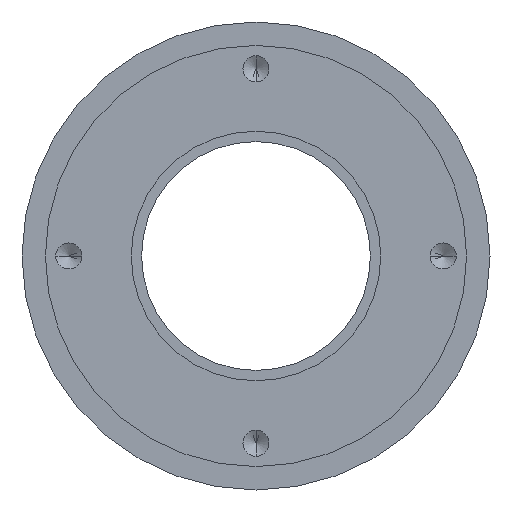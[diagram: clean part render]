
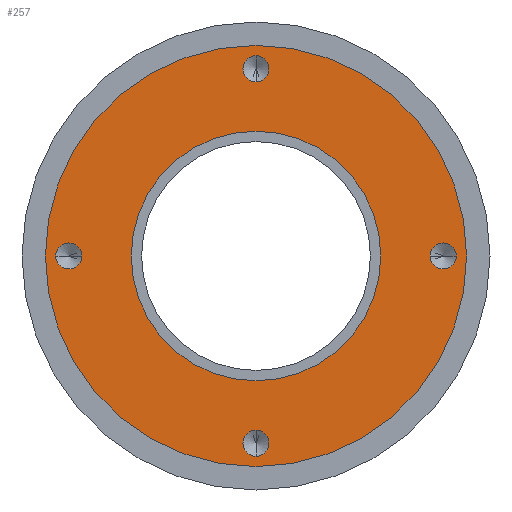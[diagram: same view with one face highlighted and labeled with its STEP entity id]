
A CAD part, front view. The second image highlights one B-rep face of the part: STEP entity #257.
In plain terms, the highlighted planar face has unit normal (0, -1, 0).
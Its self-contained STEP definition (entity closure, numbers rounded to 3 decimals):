
#257=ADVANCED_FACE('',(#327,#328,#329,#330,#331,#332),#315,.F.);
#315=PLANE('',#982);
#327=FACE_BOUND('',#359,.T.);
#328=FACE_BOUND('',#360,.T.);
#329=FACE_BOUND('',#361,.T.);
#330=FACE_BOUND('',#362,.T.);
#331=FACE_BOUND('',#363,.T.);
#332=FACE_BOUND('',#364,.T.);
#359=EDGE_LOOP('',(#455,#456));
#360=EDGE_LOOP('',(#457,#458));
#361=EDGE_LOOP('',(#459,#460));
#362=EDGE_LOOP('',(#461,#462));
#363=EDGE_LOOP('',(#463,#464));
#364=EDGE_LOOP('',(#465,#466));
#455=ORIENTED_EDGE('',*,*,#772,.F.);
#456=ORIENTED_EDGE('',*,*,#770,.F.);
#457=ORIENTED_EDGE('',*,*,#773,.T.);
#458=ORIENTED_EDGE('',*,*,#774,.T.);
#459=ORIENTED_EDGE('',*,*,#775,.F.);
#460=ORIENTED_EDGE('',*,*,#776,.F.);
#461=ORIENTED_EDGE('',*,*,#777,.F.);
#462=ORIENTED_EDGE('',*,*,#778,.F.);
#463=ORIENTED_EDGE('',*,*,#779,.F.);
#464=ORIENTED_EDGE('',*,*,#780,.F.);
#465=ORIENTED_EDGE('',*,*,#781,.F.);
#466=ORIENTED_EDGE('',*,*,#782,.F.);
#687=VERTEX_POINT('',#1436);
#688=VERTEX_POINT('',#1438);
#689=VERTEX_POINT('',#1444);
#690=VERTEX_POINT('',#1445);
#691=VERTEX_POINT('',#1448);
#692=VERTEX_POINT('',#1449);
#693=VERTEX_POINT('',#1452);
#694=VERTEX_POINT('',#1453);
#695=VERTEX_POINT('',#1456);
#696=VERTEX_POINT('',#1457);
#697=VERTEX_POINT('',#1460);
#698=VERTEX_POINT('',#1461);
#770=EDGE_CURVE('',#687,#688,#891,.T.);
#772=EDGE_CURVE('',#688,#687,#892,.T.);
#773=EDGE_CURVE('',#689,#690,#893,.T.);
#774=EDGE_CURVE('',#690,#689,#894,.T.);
#775=EDGE_CURVE('',#691,#692,#895,.T.);
#776=EDGE_CURVE('',#692,#691,#896,.T.);
#777=EDGE_CURVE('',#693,#694,#897,.T.);
#778=EDGE_CURVE('',#694,#693,#898,.T.);
#779=EDGE_CURVE('',#695,#696,#899,.T.);
#780=EDGE_CURVE('',#696,#695,#900,.T.);
#781=EDGE_CURVE('',#697,#698,#901,.T.);
#782=EDGE_CURVE('',#698,#697,#902,.T.);
#891=CIRCLE('',#968,20.25);
#892=CIRCLE('',#970,20.25);
#893=CIRCLE('',#972,12.);
#894=CIRCLE('',#973,12.);
#895=CIRCLE('',#974,1.25);
#896=CIRCLE('',#975,1.25);
#897=CIRCLE('',#976,1.25);
#898=CIRCLE('',#977,1.25);
#899=CIRCLE('',#978,1.25);
#900=CIRCLE('',#979,1.25);
#901=CIRCLE('',#980,1.25);
#902=CIRCLE('',#981,1.25);
#968=AXIS2_PLACEMENT_3D('',#1437,#1119,#1120);
#970=AXIS2_PLACEMENT_3D('',#1441,#1124,#1125);
#972=AXIS2_PLACEMENT_3D('',#1443,#1128,#1129);
#973=AXIS2_PLACEMENT_3D('',#1446,#1130,#1131);
#974=AXIS2_PLACEMENT_3D('',#1447,#1132,#1133);
#975=AXIS2_PLACEMENT_3D('',#1450,#1134,#1135);
#976=AXIS2_PLACEMENT_3D('',#1451,#1136,#1137);
#977=AXIS2_PLACEMENT_3D('',#1454,#1138,#1139);
#978=AXIS2_PLACEMENT_3D('',#1455,#1140,#1141);
#979=AXIS2_PLACEMENT_3D('',#1458,#1142,#1143);
#980=AXIS2_PLACEMENT_3D('',#1459,#1144,#1145);
#981=AXIS2_PLACEMENT_3D('',#1462,#1146,#1147);
#982=AXIS2_PLACEMENT_3D('',#1463,#1148,#1149);
#1119=DIRECTION('',(0.,1.,0.));
#1120=DIRECTION('',(-1.,0.,0.));
#1124=DIRECTION('',(0.,1.,0.));
#1125=DIRECTION('',(1.,0.,0.));
#1128=DIRECTION('',(0.,1.,0.));
#1129=DIRECTION('',(1.,0.,0.));
#1130=DIRECTION('',(0.,1.,0.));
#1131=DIRECTION('',(-1.,0.,0.));
#1132=DIRECTION('',(0.,-1.,0.));
#1133=DIRECTION('',(1.,0.,0.));
#1134=DIRECTION('',(0.,-1.,0.));
#1135=DIRECTION('',(-1.,0.,0.));
#1136=DIRECTION('',(0.,-1.,0.));
#1137=DIRECTION('',(0.,0.,-1.));
#1138=DIRECTION('',(0.,-1.,0.));
#1139=DIRECTION('',(0.,0.,1.));
#1140=DIRECTION('',(0.,-1.,0.));
#1141=DIRECTION('',(-1.,0.,0.));
#1142=DIRECTION('',(0.,-1.,0.));
#1143=DIRECTION('',(1.,0.,0.));
#1144=DIRECTION('',(0.,-1.,0.));
#1145=DIRECTION('',(0.,0.,1.));
#1146=DIRECTION('',(0.,-1.,0.));
#1147=DIRECTION('',(0.,0.,-1.));
#1148=DIRECTION('',(0.,1.,0.));
#1149=DIRECTION('',(1.,0.,0.));
#1436=CARTESIAN_POINT('',(-20.25,0.,0.));
#1437=CARTESIAN_POINT('',(0.,0.,0.));
#1438=CARTESIAN_POINT('',(20.25,0.,0.));
#1441=CARTESIAN_POINT('',(0.,0.,0.));
#1443=CARTESIAN_POINT('',(0.,0.,0.));
#1444=CARTESIAN_POINT('',(12.,0.,0.));
#1445=CARTESIAN_POINT('',(-12.,0.,0.));
#1446=CARTESIAN_POINT('',(0.,0.,0.));
#1447=CARTESIAN_POINT('',(-18.,0.,0.));
#1448=CARTESIAN_POINT('',(-16.75,0.,0.));
#1449=CARTESIAN_POINT('',(-19.25,0.,0.));
#1450=CARTESIAN_POINT('',(-18.,0.,0.));
#1451=CARTESIAN_POINT('',(0.,0.,18.));
#1452=CARTESIAN_POINT('',(0.,0.,16.75));
#1453=CARTESIAN_POINT('',(0.,0.,19.25));
#1454=CARTESIAN_POINT('',(0.,0.,18.));
#1455=CARTESIAN_POINT('',(18.,0.,0.));
#1456=CARTESIAN_POINT('',(16.75,0.,0.));
#1457=CARTESIAN_POINT('',(19.25,0.,0.));
#1458=CARTESIAN_POINT('',(18.,0.,0.));
#1459=CARTESIAN_POINT('',(0.,0.,-18.));
#1460=CARTESIAN_POINT('',(0.,0.,-16.75));
#1461=CARTESIAN_POINT('',(0.,0.,-19.25));
#1462=CARTESIAN_POINT('',(0.,0.,-18.));
#1463=CARTESIAN_POINT('',(0.,0.,0.));
